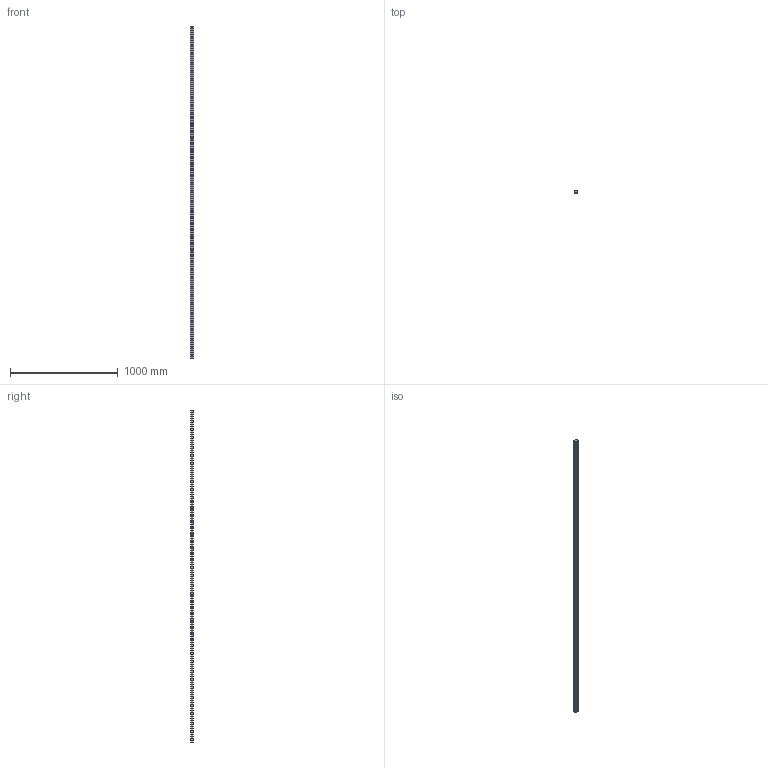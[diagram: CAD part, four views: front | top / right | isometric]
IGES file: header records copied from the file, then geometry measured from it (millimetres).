
Start section: SolidWorks IGES file using analytic representation for surfaces
Global section: file name: C:\Users\IanO\Desktop\Temp File\GENERAL\L1016_v2\L1016.RF35_v2\L1016.RF35_v2_20190612_IGES\L1016.RF35-3080.igs; native system: SolidWorks 2017; preprocessor: SolidWorks 2017; author: IanO; date: 190613.173228; units: millimetre
Bounding box: 34 x 26 x 3080 mm (x, y, z)
Surface area: 401157.3 mm2 (no closed solid volume)
Topology: 0 solids, 0 shells, 299 faces, 4848 edges, 4770 vertices
Faces by surface type: revolution 238, bspline 61
